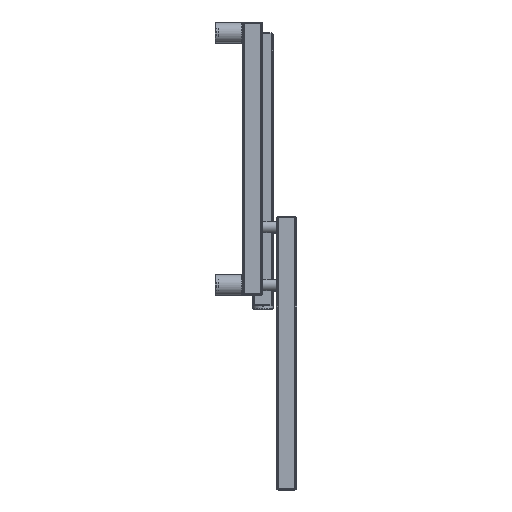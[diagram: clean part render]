
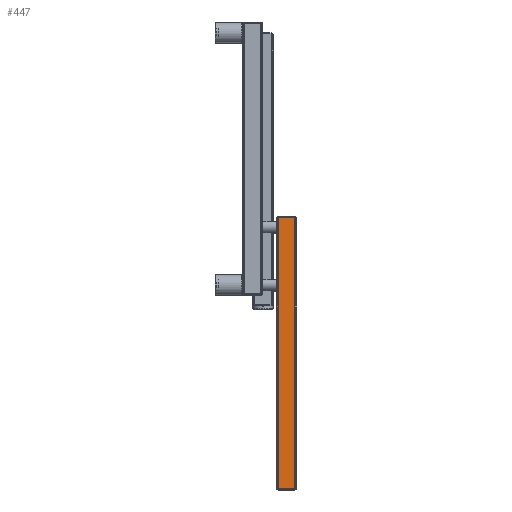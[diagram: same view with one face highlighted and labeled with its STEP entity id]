
A CAD part, top view. The second image highlights one B-rep face of the part: STEP entity #447.
In plain terms, the highlighted planar face has unit normal (0, 0, 1) as drawn and (0, -1, 0) by its records, which use the part's own axes.
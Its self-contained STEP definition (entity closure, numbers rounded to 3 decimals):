
#447 = ADVANCED_FACE( '', ( #942 ), #943, .T. );
#942 = FACE_OUTER_BOUND( '', #1585, .T. );
#943 = PLANE( '', #1586 );
#1585 = EDGE_LOOP( '', ( #2540, #2541, #2542, #2543 ) );
#1586 = AXIS2_PLACEMENT_3D( '', #2544, #2545, #2546 );
#2540 = ORIENTED_EDGE( '', *, *, #3446, .T. );
#2541 = ORIENTED_EDGE( '', *, *, #3655, .T. );
#2542 = ORIENTED_EDGE( '', *, *, #3656, .F. );
#2543 = ORIENTED_EDGE( '', *, *, #3400, .T. );
#2544 = CARTESIAN_POINT( '', ( 15., -15., 400. ) );
#2545 = DIRECTION( '', ( 0., -1., 0. ) );
#2546 = DIRECTION( '', ( 1., 0., 0. ) );
#3400 = EDGE_CURVE( '', #3963, #3964, #3965, .F. );
#3446 = EDGE_CURVE( '', #3964, #4042, #4044, .T. );
#3655 = EDGE_CURVE( '', #4042, #4379, #4380, .T. );
#3656 = EDGE_CURVE( '', #3963, #4379, #4381, .T. );
#3963 = VERTEX_POINT( '', #4801 );
#3964 = VERTEX_POINT( '', #4802 );
#3965 = LINE( '', #4803, #4804 );
#4042 = VERTEX_POINT( '', #5017 );
#4044 = LINE( '', #5019, #5020 );
#4379 = VERTEX_POINT( '', #5436 );
#4380 = LINE( '', #5437, #5438 );
#4381 = LINE( '', #5439, #5440 );
#4801 = CARTESIAN_POINT( '', ( 12., -15., 0. ) );
#4802 = CARTESIAN_POINT( '', ( 12., -15., 400. ) );
#4803 = CARTESIAN_POINT( '', ( 12., -15., 400. ) );
#4804 = VECTOR( '', #5906, 1000. );
#5017 = CARTESIAN_POINT( '', ( -12., -15., 400. ) );
#5019 = CARTESIAN_POINT( '', ( 15., -15., 400. ) );
#5020 = VECTOR( '', #5965, 1000. );
#5436 = CARTESIAN_POINT( '', ( -12., -15., 0. ) );
#5437 = CARTESIAN_POINT( '', ( -12., -15., 400. ) );
#5438 = VECTOR( '', #6284, 1000. );
#5439 = CARTESIAN_POINT( '', ( 15., -15., 0. ) );
#5440 = VECTOR( '', #6285, 1000. );
#5906 = DIRECTION( '', ( 0., 0., -1. ) );
#5965 = DIRECTION( '', ( -1., 0., 0. ) );
#6284 = DIRECTION( '', ( 0., 0., -1. ) );
#6285 = DIRECTION( '', ( -1., 0., 0. ) );
